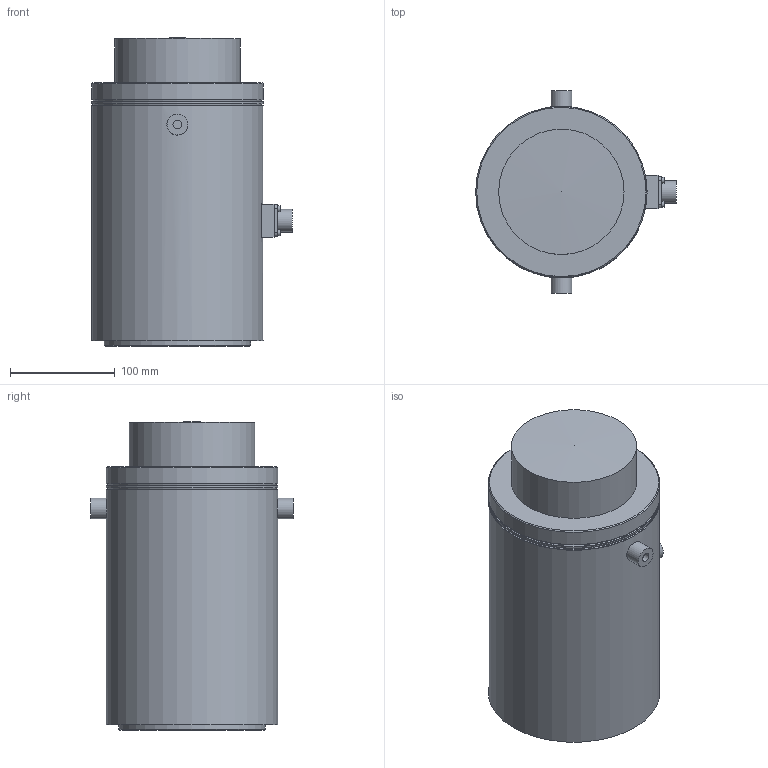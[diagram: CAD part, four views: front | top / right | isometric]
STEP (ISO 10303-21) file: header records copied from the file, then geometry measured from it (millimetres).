
FILE_DESCRIPTION(/* description */ ('Unknown'),/* implementation_level */ '2;1');
FILE_NAME(/* name */ 'C3XK-T200 to T300 SPEC',/* time_stamp */ '2021-05-11T15:28:32+09:00',/* author */ ('Unknown'),/* organization */ ('Unknown'),/* preprocessor_version */ 'ST-DEVELOPER v16.7',/* originating_system */ 'DEX',/* authorisation */ $);
FILE_SCHEMA (('AUTOMOTIVE_DESIGN {1 0 10303 214 3 1 1}'));
Length unit declared in the file: millimetre
Products named in the file (1): C3XK-T200 to T300 SPEC
Bounding box: 192 x 194 x 295 mm (x, y, z)
Volume: 5798833 mm3; surface area: 195994.8 mm2
Topology: 1 solids, 1 shells, 94 faces, 206 edges, 136 vertices
Faces by surface type: plane 62, cylinder 21, cone 8, torus 2, sphere 1
Full cylindrical faces by diameter (mm): 5.5 x4, 8.376 x2, 10 x1, 19.8 x2, 20 x2, 21.8 x1, 120 x1, 140 x1, 164 x3
Entity records: 3053 total; most frequent: CARTESIAN_POINT 424, DIRECTION 408, ORIENTED_EDGE 334, EDGE_CURVE 167, AXIS2_PLACEMENT_3D 148, FACE_BOUND 145, EDGE_LOOP 144, VERTEX_POINT 126
